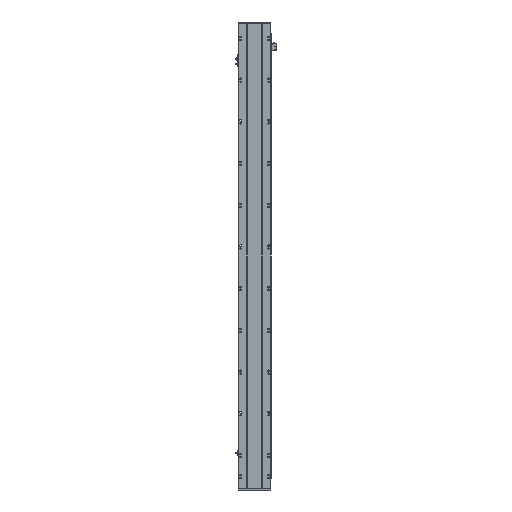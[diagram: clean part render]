
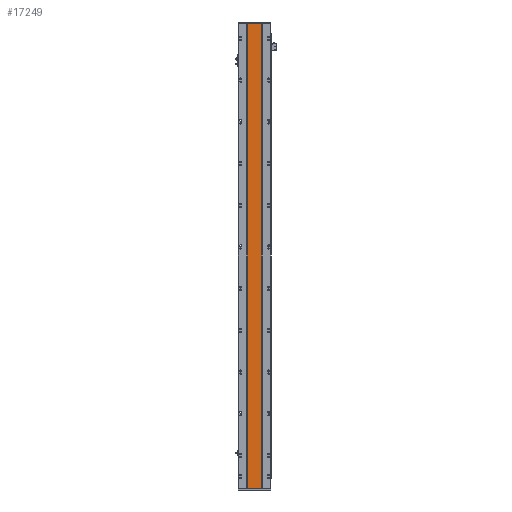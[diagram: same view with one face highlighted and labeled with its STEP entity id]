
A CAD part, front view. The second image highlights one B-rep face of the part: STEP entity #17249.
In plain terms, the highlighted planar face has unit normal (0, -1, 0).
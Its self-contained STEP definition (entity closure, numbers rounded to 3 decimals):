
#2265 = LINE ( 'NONE', #19633, #29536 ) ;
#3282 = DIRECTION ( 'NONE',  ( 1., 0., 0. ) ) ;
#9555 = VECTOR ( 'NONE', #10875, 1000. ) ;
#9596 = ORIENTED_EDGE ( 'NONE', *, *, #16666, .T. ) ;
#10875 = DIRECTION ( 'NONE',  ( 0., 0., -1. ) ) ;
#10937 = FACE_OUTER_BOUND ( 'NONE', #11896, .T. ) ;
#11896 = EDGE_LOOP ( 'NONE', ( #34552, #29045, #33649, #9596 ) ) ;
#13131 = CARTESIAN_POINT ( 'NONE',  ( 129.288, 16.9, 2404. ) ) ;
#13447 = DIRECTION ( 'NONE',  ( 0., 0., -1. ) ) ;
#14133 = CARTESIAN_POINT ( 'NONE',  ( 205.288, 16.9, 2404. ) ) ;
#16666 = EDGE_CURVE ( 'NONE', #38801, #36773, #2265, .T. ) ;
#17249 = ADVANCED_FACE ( 'NONE', ( #10937 ), #34063, .F. ) ;
#18368 = VECTOR ( 'NONE', #3282, 1000. ) ;
#19241 = VERTEX_POINT ( 'NONE', #34258 ) ;
#19633 = CARTESIAN_POINT ( 'NONE',  ( 129.288, 16.9, 2404. ) ) ;
#19884 = CARTESIAN_POINT ( 'NONE',  ( 205.288, 16.9, 0. ) ) ;
#21001 = CARTESIAN_POINT ( 'NONE',  ( 205.288, 16.9, 2404. ) ) ;
#22753 = CARTESIAN_POINT ( 'NONE',  ( 129.288, 16.9, 0. ) ) ;
#23451 = LINE ( 'NONE', #19884, #32560 ) ;
#24788 = AXIS2_PLACEMENT_3D ( 'NONE', #14133, #37605, #27300 ) ;
#27210 = VERTEX_POINT ( 'NONE', #29207 ) ;
#27300 = DIRECTION ( 'NONE',  ( -1., 0., 0. ) ) ;
#28384 = EDGE_CURVE ( 'NONE', #36773, #19241, #23451, .T. ) ;
#28400 = LINE ( 'NONE', #21001, #9555 ) ;
#29045 = ORIENTED_EDGE ( 'NONE', *, *, #39949, .F. ) ;
#29207 = CARTESIAN_POINT ( 'NONE',  ( 205.288, 16.9, 2404. ) ) ;
#29536 = VECTOR ( 'NONE', #13447, 1000. ) ;
#32560 = VECTOR ( 'NONE', #40111, 1000. ) ;
#33649 = ORIENTED_EDGE ( 'NONE', *, *, #40853, .F. ) ;
#34063 = PLANE ( 'NONE',  #24788 ) ;
#34129 = CARTESIAN_POINT ( 'NONE',  ( 129.288, 16.9, 2404. ) ) ;
#34258 = CARTESIAN_POINT ( 'NONE',  ( 205.288, 16.9, 0. ) ) ;
#34552 = ORIENTED_EDGE ( 'NONE', *, *, #28384, .T. ) ;
#36773 = VERTEX_POINT ( 'NONE', #22753 ) ;
#37605 = DIRECTION ( 'NONE',  ( 0., 1., 0. ) ) ;
#37844 = LINE ( 'NONE', #13131, #18368 ) ;
#38801 = VERTEX_POINT ( 'NONE', #34129 ) ;
#39949 = EDGE_CURVE ( 'NONE', #27210, #19241, #28400, .T. ) ;
#40111 = DIRECTION ( 'NONE',  ( 1., 0., 0. ) ) ;
#40853 = EDGE_CURVE ( 'NONE', #38801, #27210, #37844, .T. ) ;
